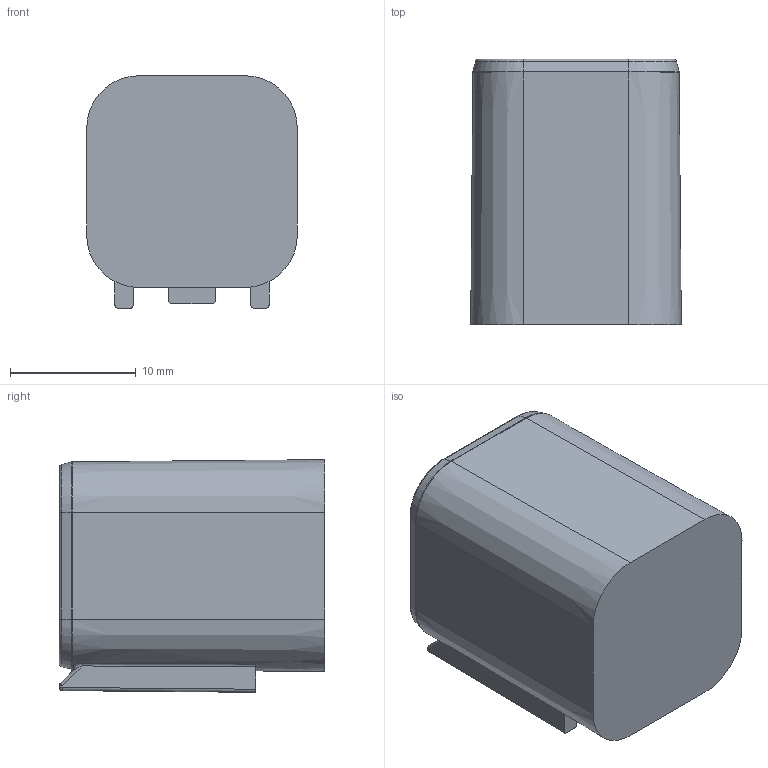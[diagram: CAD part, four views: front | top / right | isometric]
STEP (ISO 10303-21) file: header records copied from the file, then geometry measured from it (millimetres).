
FILE_DESCRIPTION(('CATIA V6 STEP','CAx-IF Rec.Pracs.--- Model Styling and Organization---1.5--- 2016-08-15','CAx-IF Rec.Pracs.---Supplemental Geometry---1.0---2011-11-01','CAx-IF Rec.Pracs.---Representation and Presentation of Product Manufacturing Information (PMI)---4.0---2014-10-13','CAx-IF Rec.Pracs.---User Defined Attributes---1.5---2016-08-15','CAx-IF Rec.Pracs.--- Composite Materials ---3.4---2017-06-13','CAx-IF Rec.Pracs.---Tessellated 3D Geometry---1.0---2015-12-17'),'2;1');
FILE_NAME('\\?\C:\root\24D718E80800000069409A2C00141718.stp','2025-12-23T00:48:37+00:00',('none'),('none'),'3DEXPERIENCE Platform3DEXPERIENCE R2021x HotFix 10','3DEXPERIENCE Platform STEP AP242 v2','none');
FILE_SCHEMA(('AP242_MANAGED_MODEL_BASED_3D_ENGINEERING_MIM_LF {1 0 10303 442 1 1 4}'));
Length unit declared in the file: millimetre
Products named in the file (1): LV CONN,2HP,INTERFACE
Bounding box: 16.73 x 21.1 x 18.48 mm (x, y, z)
Surface area: 11764.8 mm2
Topology: 4 solids, 4 shells, 1180 faces, 2716 edges, 1480 vertices
Faces by surface type: cylinder 352, plane 348, bspline 152, torus 128, cone 96, sphere 88, extrusion 16
Entity records: 40279 total; most frequent: CARTESIAN_POINT 16654, ORIENTED_EDGE 5256, DIRECTION 3901, EDGE_CURVE 2628, AXIS2_PLACEMENT_3D 1742, VERTEX_POINT 1480, VECTOR 1204, EDGE_LOOP 1204
